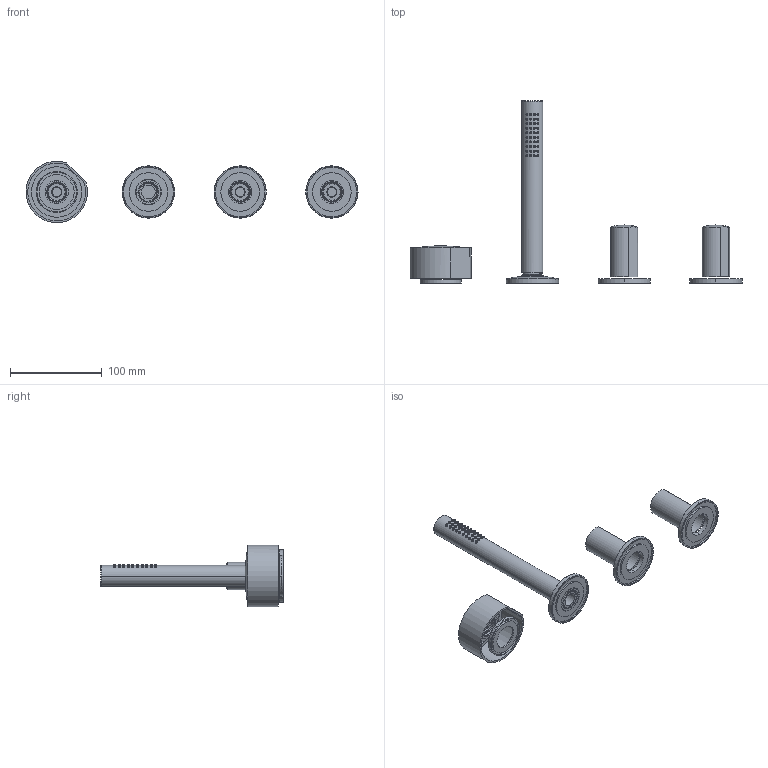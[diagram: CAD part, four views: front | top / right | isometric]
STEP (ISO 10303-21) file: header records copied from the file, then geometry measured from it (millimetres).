
FILE_DESCRIPTION((''),'2;1');
FILE_NAME('F3174_1_FILE_3D','2019-04-12T',('ivanv'),(''),'CREO PARAMETRIC BY PTC INC, 2016260','CREO PARAMETRIC BY PTC INC, 2016260','');
FILE_SCHEMA(('CONFIG_CONTROL_DESIGN'));
Length unit declared in the file: millimetre
Products named in the file (1): F3174_1_FILE_3D
Bounding box: 362 x 199 x 67 mm (x, y, z)
Volume: 167353 mm3; surface area: 86751.5 mm2
Topology: 8 solids, 8 shells, 864 faces, 2099 edges, 1351 vertices
Faces by surface type: cylinder 416, plane 282, cone 64, bspline 52, torus 42, sphere 8
Entity records: 51857 total; most frequent: CARTESIAN_POINT 32525, ORIENTED_EDGE 4186, DIRECTION 3681, EDGE_CURVE 2093, AXIS2_PLACEMENT_3D 1505, VERTEX_POINT 1351, EDGE_LOOP 982, FACE_OUTER_BOUND 864
